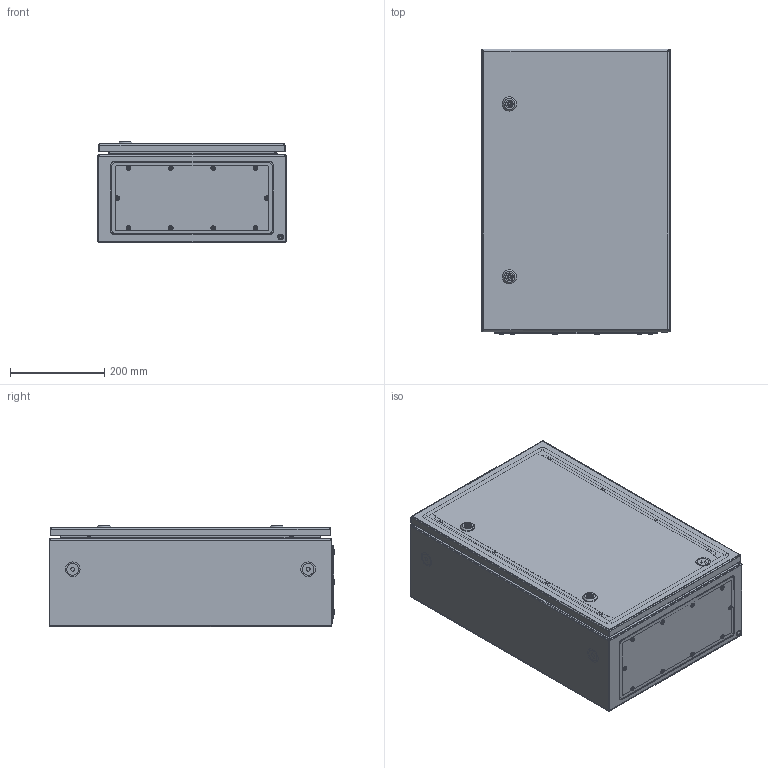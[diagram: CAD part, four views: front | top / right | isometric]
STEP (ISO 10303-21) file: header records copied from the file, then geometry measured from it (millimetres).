
FILE_DESCRIPTION (( 'STEP AP214' ), '1' );
FILE_NAME ('CCS 60.40.21 仃圄 觐祜嚓蝽.STEP', '2025-09-09T19:26:23', ( '' ), ( '' ), 'SwSTEP 2.0', 'SolidWorks 2019', '' );
FILE_SCHEMA (( 'AUTOMOTIVE_DESIGN' ));
Length unit declared in the file: millimetre
Products named in the file (28): CCS X.002 扰鍙欙樥燲CCS 60.002; CCS X.Y.02.000蚜 拟屦黖CCS 60.40; Essentra_d9.3_055009300003; Ïåòëÿ KIT_Ìîäóëü_êîðïóñíàÿ ÷àñòü â ñáîðå; Çàìîê LC 5DB.S_‡ ¬®ª LC 5DB.S_45mm; PKV Y.15 相礤朦 赅徨朦眍泐 忖钿郷PKV 40(15); hex flange nut_din_Hexagon Flange Nut DIN 6923 - M8 - N; CCS X.Y.Z.01.001 扻豵鵨_CCS 60.40.21; Øïèëüêà Ì8õ25; CCS X.Y.02.001 拟屦黖CCS 60.40; Øïèëüêà çàçåìëåíèÿ Ì6õ17,5_˜¯¨«ìª  § §¥¬«¥­¨ï Œ6å17,5; plain washer grade a_din_Washer DIN 125 - A 5.3; ßçû÷îê çàìêà LC 5DB.S; pan head cross recess screw_din_DIN EN ISO 7045 - M5 x 6 - Z - 6N; Âèíò ðåçüáîâûäàâëèâàþùèé ñ ïîëóïîòàéíîé ãîëîâêîé Ì5õ12; CCS X.Y.Z.01.000捘 扻豵鵨_CCS 60.40.21; KIT_Çàæèìíîå êîëüöî_ïîëèîêñèìåòèëåí_ô5_EMKA 1031-U16; MPC X.Y Ïàíåëü ìîíòàæíàÿ_MPC 60.40; Essentra_d6,3_1287228; KIT_Øòèôò_ô5_Ìîäóëü; Øïèëüêà çàçåìëåíèÿ Ì6õ17,5_˜¯¨«ìª  § §¥¬«¥­¨ï Œ6å17,5 á ª®«¯ çª®¬; Ïåòëÿ KIT_Ìîäóëü_êîðïóñíàÿ ÷àñòü; Ãàéêà Ì8 DIN 934; CCS 60.40.21 仃圄 觐祜嚓蝽; Ïåòëÿ ïðèâàðíàÿ ÷àñòü; ﾇ瑟鶴 LC 5DB.S
Assembly tree (58 placements, depth 3):
  CCS 60.40.21 仃圄 觐祜嚓蝽
    CCS X.Y.Z.01.000捘 扻豵鵨_CCS 60.40.21
      CCS X.Y.Z.01.001 扻豵鵨_CCS 60.40.21
      Øïèëüêà çàçåìëåíèÿ Ì6õ17,5_˜¯¨«ìª  § §¥¬«¥­¨ï Œ6å17,5  x4
      Øïèëüêà Ì8õ25  x4
    Ïåòëÿ KIT_Ìîäóëü_êîðïóñíàÿ ÷àñòü â ñáîðå
      Ïåòëÿ KIT_Ìîäóëü_êîðïóñíàÿ ÷àñòü
      KIT_Øòèôò_ô5_Ìîäóëü
      KIT_Çàæèìíîå êîëüöî_ïîëèîêñèìåòèëåí_ô5_EMKA 1031-U16
    Ïåòëÿ KIT_Ìîäóëü_êîðïóñíàÿ ÷àñòü â ñáîðå
      Ïåòëÿ KIT_Ìîäóëü_êîðïóñíàÿ ÷àñòü
      KIT_Øòèôò_ô5_Ìîäóëü
      KIT_Çàæèìíîå êîëüöî_ïîëèîêñèìåòèëåí_ô5_EMKA 1031-U16
    CCS X.Y.02.000蚜 拟屦黖CCS 60.40
      CCS X.Y.02.001 拟屦黖CCS 60.40
      Øïèëüêà çàçåìëåíèÿ Ì6õ17,5_˜¯¨«ìª  § §¥¬«¥­¨ï Œ6å17,5 á ª®«¯ çª®¬
      CCS X.002 扰鍙欙樥燲CCS 60.002  x2
      Ïåòëÿ ïðèâàðíàÿ ÷àñòü  x2
    MPC X.Y Ïàíåëü ìîíòàæíàÿ_MPC 60.40
    PKV Y.15 相礤朦 赅徨朦眍泐 忖钿郷PKV 40(15)
    pan head cross recess screw_din_DIN EN ISO 7045 - M5 x 6 - Z - 6N  x2
    plain washer grade a_din_Washer DIN 125 - A 5.3  x2
    Ãàéêà Ì8 DIN 934  x4
    hex flange nut_din_Hexagon Flange Nut DIN 6923 - M8 - N  x4
    Âèíò ðåçüáîâûäàâëèâàþùèé ñ ïîëóïîòàéíîé ãîëîâêîé Ì5õ12  x10
    Essentra_d9.3_055009300003
    Essentra_d6,3_1287228  x2
    Çàìîê LC 5DB.S_‡ ¬®ª LC 5DB.S_45mm
      ﾇ瑟鶴 LC 5DB.S
      ßçû÷îê çàìêà LC 5DB.S
    Çàìîê LC 5DB.S_‡ ¬®ª LC 5DB.S_45mm
      ﾇ瑟鶴 LC 5DB.S
      ßçû÷îê çàìêà LC 5DB.S
Bounding box: 400 x 606.62 x 215 mm (x, y, z)
Volume: 1968050.2 mm3; surface area: 2564311.1 mm2
Topology: 56 solids, 56 shells, 2582 faces, 6430 edges, 3990 vertices
Faces by surface type: plane 994, cylinder 977, cone 290, bspline 160, torus 124, sphere 37
Entity records: 53052 total; most frequent: CARTESIAN_POINT 20761, ORIENTED_EDGE 6416, DIRECTION 6297, EDGE_CURVE 3208, AXIS2_PLACEMENT_3D 2348, VERTEX_POINT 1991, LINE 1601, VECTOR 1601
